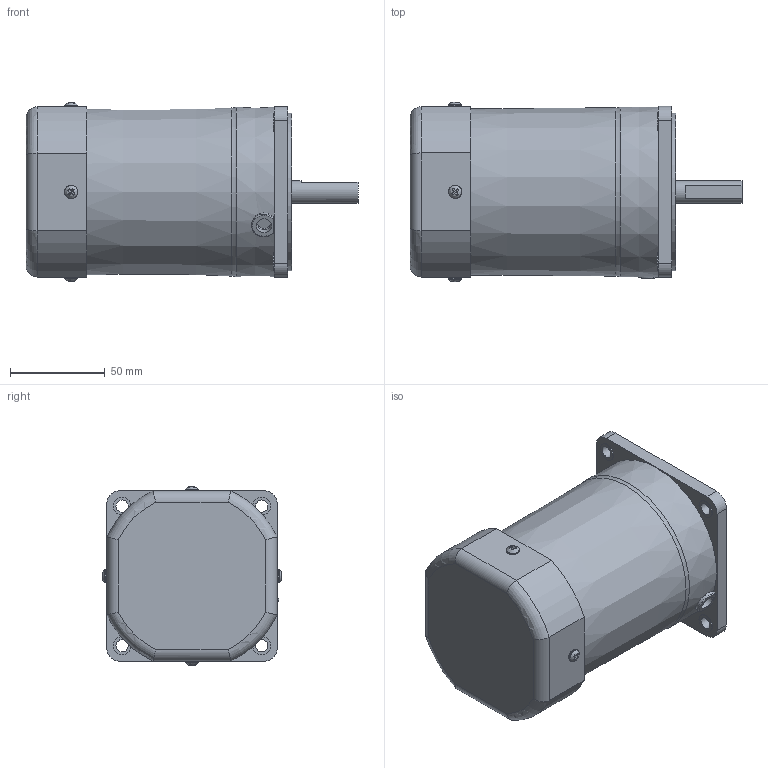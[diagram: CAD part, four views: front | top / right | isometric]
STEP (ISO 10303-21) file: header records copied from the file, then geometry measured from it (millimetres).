
FILE_DESCRIPTION((''),'2;1');
FILE_NAME('D:\STP파일\150W MOTOR\S9I150D.stp','2013-05-20T18:52:07',('leebh'),(''),'Autodesk Inventor 2011','Autodesk Inventor 2011','');
FILE_SCHEMA(('AUTOMOTIVE_DESIGN { 1 0 10303 214 1 1 1 1 }'));
Length unit declared in the file: millimetre
Products named in the file (1): S9I90G-T1
Bounding box: 174.8 x 94.6 x 94.14 mm (x, y, z)
Volume: 884303.4 mm3; surface area: 61971.7 mm2
Topology: 1 solids, 3 shells, 165 faces, 414 edges, 270 vertices
Faces by surface type: plane 102, cylinder 42, torus 14, bspline 4, cone 3
Full cylindrical faces by diameter (mm): 4 x1, 6.5 x4, 7 x4, 8 x1, 9.5 x4, 10 x1, 12 x1, 40 x1, 83 x1
Entity records: 5171 total; most frequent: CARTESIAN_POINT 1372, ORIENTED_EDGE 730, DIRECTION 726, EDGE_CURVE 365, AXIS2_PLACEMENT_3D 260, VERTEX_POINT 256, EDGE_LOOP 227, VECTOR 206
